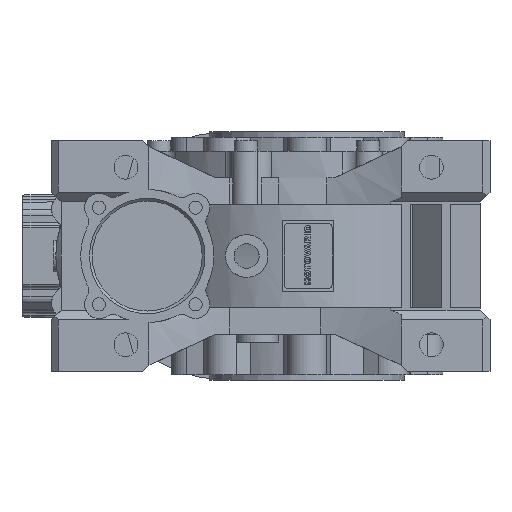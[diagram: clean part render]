
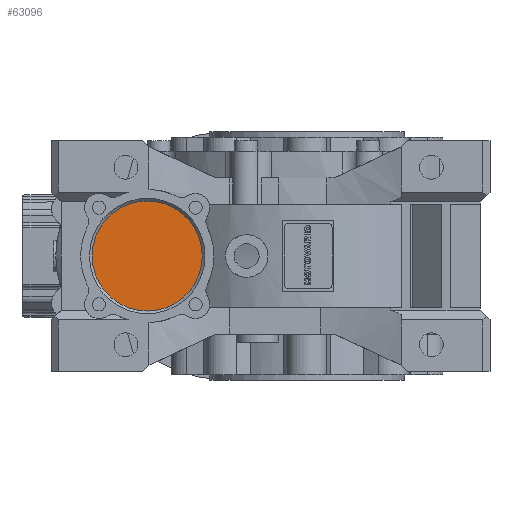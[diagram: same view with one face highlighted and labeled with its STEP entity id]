
A CAD part, left-side view. The second image highlights one B-rep face of the part: STEP entity #63096.
In plain terms, the highlighted planar face has unit normal (-1, 0, 0) as drawn and (1, 0, 0) by its records, which use the part's own axes.
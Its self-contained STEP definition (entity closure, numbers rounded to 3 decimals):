
#3181=CIRCLE('',#82032,31.);
#31624=ORIENTED_EDGE('',*,*,#42690,.T.);
#42690=EDGE_CURVE('',#49484,#49484,#3181,.T.);
#49484=VERTEX_POINT('',#120230);
#53801=EDGE_LOOP('',(#31624));
#57738=FACE_BOUND('',#53801,.T.);
#60061=PLANE('',#82031);
#63096=ADVANCED_FACE('',(#57738),#60061,.T.);
#82031=AXIS2_PLACEMENT_3D('',#120228,#99284,#99285);
#82032=AXIS2_PLACEMENT_3D('',#120229,#99286,#99287);
#99284=DIRECTION('',(1.,0.,0.));
#99285=DIRECTION('',(0.,0.,-1.));
#99286=DIRECTION('',(1.,0.,0.));
#99287=DIRECTION('',(0.,0.,-1.));
#120228=CARTESIAN_POINT('',(101.5,90.,0.));
#120229=CARTESIAN_POINT('',(101.5,90.,0.));
#120230=CARTESIAN_POINT('',(101.5,90.,-31.));
